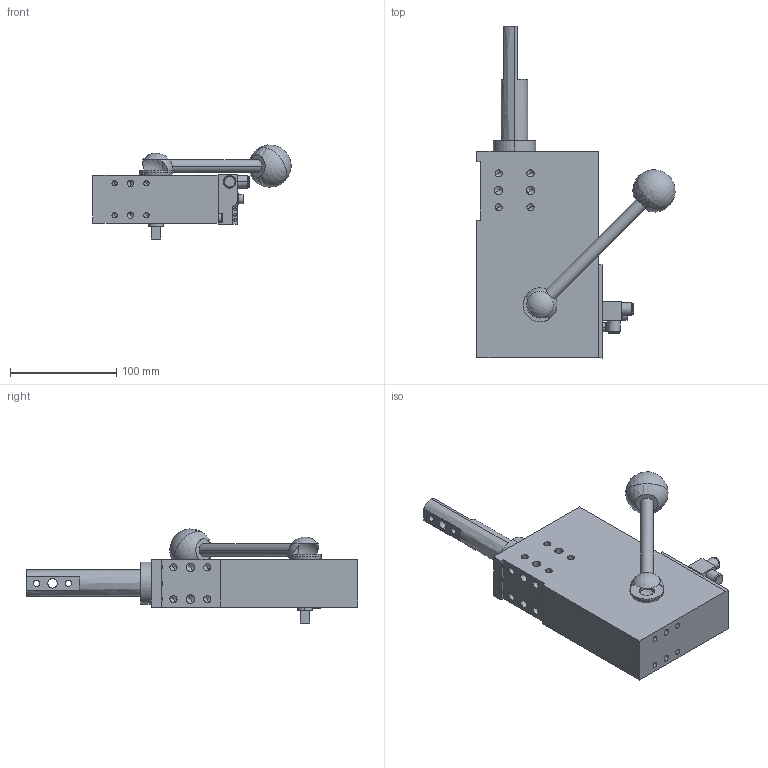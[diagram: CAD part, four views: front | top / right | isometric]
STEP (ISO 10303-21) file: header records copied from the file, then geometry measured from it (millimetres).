
FILE_DESCRIPTION(('CATIA V5 STEP Exchange'),'2;1');
FILE_NAME('G:\Konstruktion\Modelle\UPLOAD\SZV_1_40_Z_A12_T12_TUENKERS.stp','2014-09-18T06:56:02+00:00',('none'),('none'),'CATIA Version 5 Release 19 SP 9 (IN-10)','CATIA V5 STEP AP203','none');
FILE_SCHEMA(('CONFIG_CONTROL_DESIGN'));
Length unit declared in the file: millimetre
Products named in the file (1): SZV_1_40_Z_A12_T12_TUENKERS
Bounding box: 186.89 x 313 x 88.65 mm (x, y, z)
Volume: 1107149.5 mm3; surface area: 110569.3 mm2
Topology: 1 solids, 1 shells, 237 faces, 678 edges, 407 vertices
Faces by surface type: cylinder 93, cone 66, plane 45, sphere 16, bspline 13, torus 4
Entity records: 7274 total; most frequent: CARTESIAN_POINT 2028, ORIENTED_EDGE 1192, DIRECTION 789, EDGE_CURVE 596, AXIS2_PLACEMENT_3D 419, VERTEX_POINT 407, EDGE_LOOP 295, CIRCLE 288
